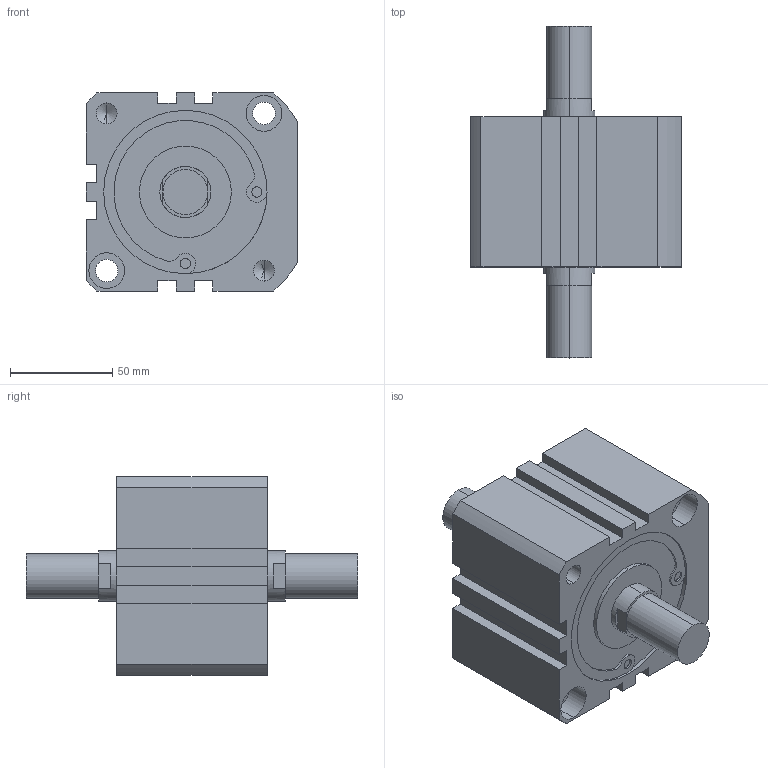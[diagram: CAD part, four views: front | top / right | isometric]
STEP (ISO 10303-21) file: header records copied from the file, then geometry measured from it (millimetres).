
FILE_DESCRIPTION (( 'STEP AP203' ), '1' );
FILE_NAME ('XG#M7-80-10.STEP', '2016-05-24T02:25:32', ( '' ), ( '' ), 'SwSTEP 2.0', 'SolidWorks 2014', '' );
FILE_SCHEMA (( 'CONFIG_CONTROL_DESIGN' ));
Length unit declared in the file: millimetre
Products named in the file (1): XG#M7-80-10
Bounding box: 103.5 x 162.5 x 97 mm (x, y, z)
Volume: 691570.3 mm3; surface area: 70630.4 mm2
Topology: 1 solids, 1 shells, 142 faces, 354 edges, 224 vertices
Faces by surface type: cylinder 66, plane 60, cone 16
Entity records: 4269 total; most frequent: DIRECTION 782, CARTESIAN_POINT 709, ORIENTED_EDGE 684, EDGE_CURVE 342, AXIS2_PLACEMENT_3D 297, VERTEX_POINT 224, LINE 188, VECTOR 188
